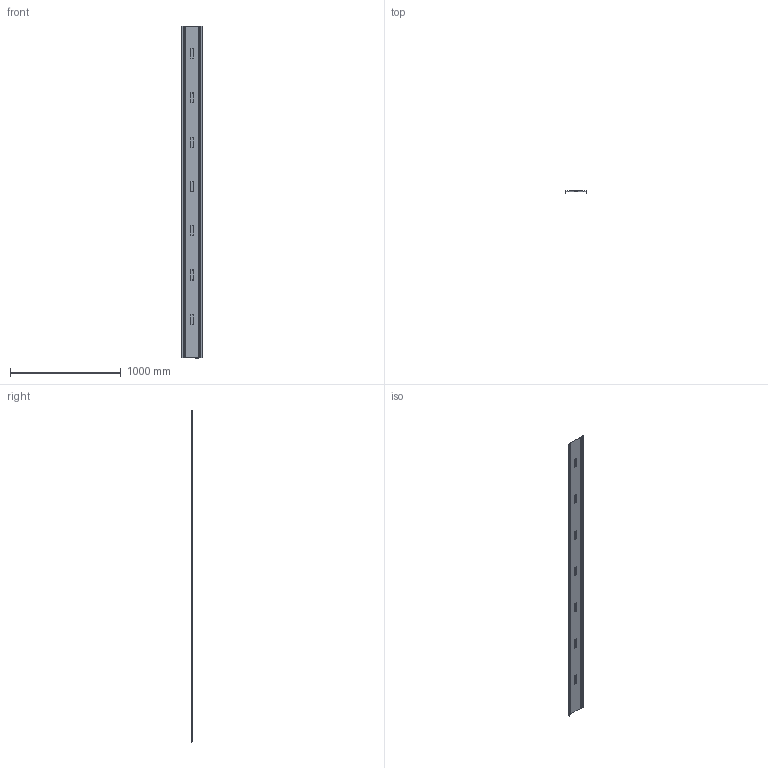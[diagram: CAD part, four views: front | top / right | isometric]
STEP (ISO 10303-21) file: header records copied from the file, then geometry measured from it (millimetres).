
FILE_DESCRIPTION (( 'STEP AP214' ), '1' );
FILE_NAME ('TFEL 150.STEP', '2023-06-28T14:01:03', ( '' ), ( '' ), 'SwSTEP 2.0', 'SolidWorks 2022', '' );
FILE_SCHEMA (( 'AUTOMOTIVE_DESIGN' ));
Length unit declared in the file: millimetre
Products named in the file (1): TFEL 150
Bounding box: 190 x 15 x 3000 mm (x, y, z)
Volume: 529912.2 mm3; surface area: 1325720 mm2
Topology: 1 solids, 1 shells, 1030 faces, 2722 edges, 1756 vertices
Faces by surface type: plane 549, bspline 329, cylinder 96, torus 56
Entity records: 43614 total; most frequent: CARTESIAN_POINT 20118, ORIENTED_EDGE 5444, DIRECTION 3788, EDGE_CURVE 2722, VERTEX_POINT 1756, LINE 1744, VECTOR 1744, EDGE_LOOP 1100
